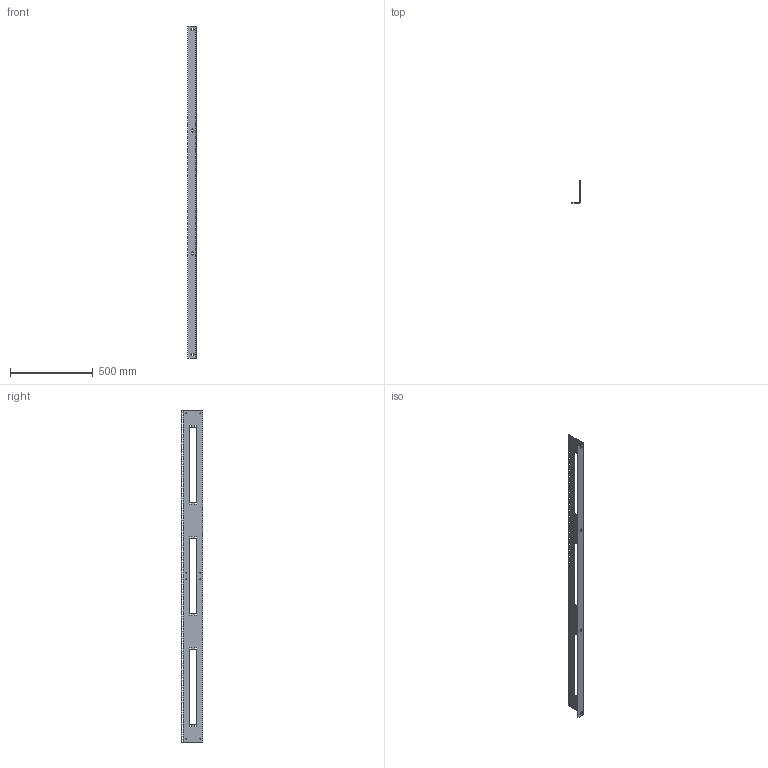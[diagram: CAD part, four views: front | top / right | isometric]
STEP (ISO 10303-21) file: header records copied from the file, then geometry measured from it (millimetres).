
FILE_DESCRIPTION(/* description */ ('Unknown'),/* implementation_level */ '2;1');
FILE_NAME(/* name */ 'H1SRR45U31BK',/* time_stamp */ '2021-03-18T08:13:17-04:00',/* author */ ('Unknown'),/* organization */ ('Unknown'),/* preprocessor_version */ 'ST-DEVELOPER v16.7',/* originating_system */ 'Solid Edge',/* authorisation */ 'Unknown');
FILE_SCHEMA (('AUTOMOTIVE_DESIGN {1 0 10303 214 3 1 1}'));
Length unit declared in the file: millimetre
Products named in the file (1): COM57244-32LW
Bounding box: 50.8 x 130.66 x 2001.01 mm (x, y, z)
Volume: 679509.7 mm3; surface area: 595603.9 mm2
Topology: 1 solids, 1 shells, 757 faces, 2228 edges, 1488 vertices
Faces by surface type: plane 708, cylinder 38, bspline 11
Full cylindrical faces by diameter (mm): 4.496 x8
Entity records: 25702 total; most frequent: CARTESIAN_POINT 5069, ORIENTED_EDGE 4424, DIRECTION 3686, EDGE_CURVE 2212, LINE 2040, VECTOR 2040, VERTEX_POINT 1480, EDGE_LOOP 1104
